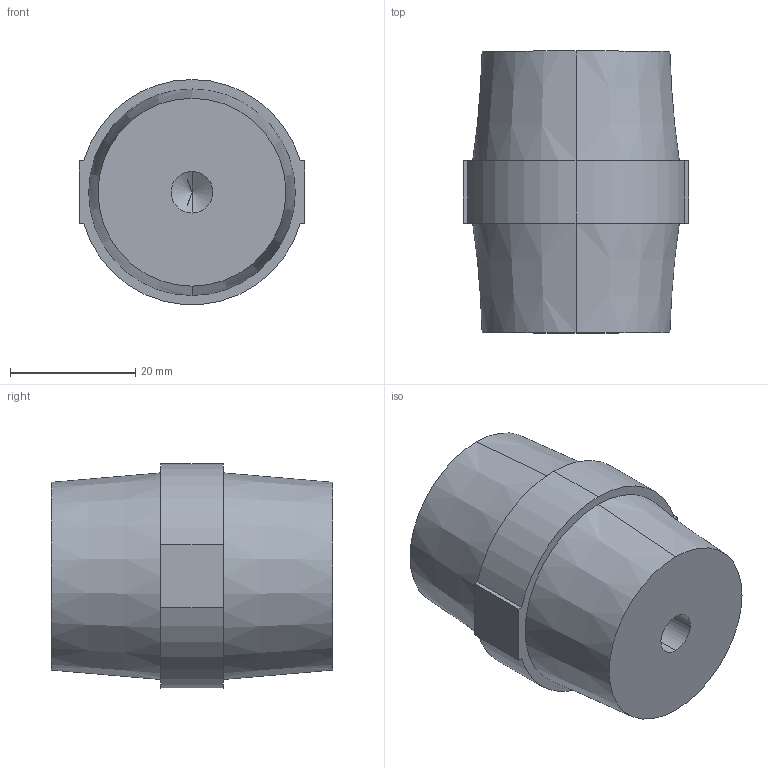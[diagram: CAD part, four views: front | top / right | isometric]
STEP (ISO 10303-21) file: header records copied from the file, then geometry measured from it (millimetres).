
FILE_DESCRIPTION (( 'STEP AP214' ), '1' );
FILE_NAME ('Èçîëÿòîð îïîðíûé BI 45.STEP', '2022-06-17T06:37:25', ( '' ), ( '' ), 'SwSTEP 2.0', 'SolidWorks 2018', '' );
FILE_SCHEMA (( 'AUTOMOTIVE_DESIGN' ));
Length unit declared in the file: millimetre
Products named in the file (1): Èçîëÿòîð îïîðíûé BI 45
Bounding box: 36 x 45 x 35.93 mm (x, y, z)
Volume: 36712.5 mm3; surface area: 6852.2 mm2
Topology: 1 solids, 1 shells, 25 faces, 59 edges, 36 vertices
Faces by surface type: plane 10, cone 8, cylinder 7
Entity records: 916 total; most frequent: DIRECTION 129, CARTESIAN_POINT 117, ORIENTED_EDGE 110, EDGE_CURVE 55, AXIS2_PLACEMENT_3D 48, VERTEX_POINT 36, VECTOR 33, LINE 33
